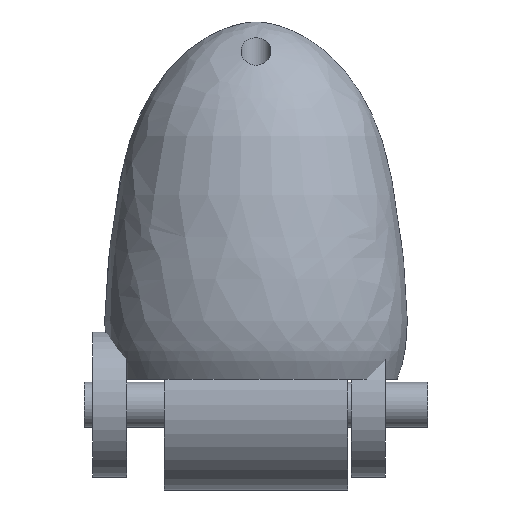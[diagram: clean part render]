
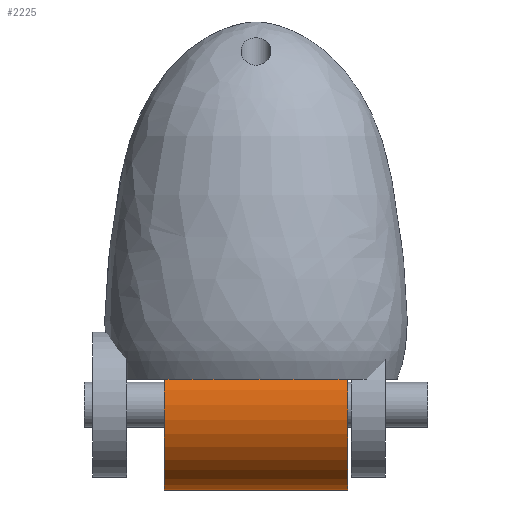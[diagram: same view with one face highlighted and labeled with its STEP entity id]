
A CAD part, left-side view. The second image highlights one B-rep face of the part: STEP entity #2225.
In plain terms, the highlighted cylindrical face has radius 4 mm (diameter 8 mm), a full revolution.
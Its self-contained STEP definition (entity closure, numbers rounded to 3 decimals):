
#2225 = ADVANCED_FACE('',(#2226),#2253,.T.);
#2226 = FACE_BOUND('',#2227,.T.);
#2227 = EDGE_LOOP('',(#2228,#2237,#2245,#2252));
#2228 = ORIENTED_EDGE('',*,*,#2229,.F.);
#2229 = EDGE_CURVE('',#2230,#2230,#2232,.T.);
#2230 = VERTEX_POINT('',#2231);
#2231 = CARTESIAN_POINT('',(0.,4.302,4.));
#2232 = CIRCLE('',#2233,4.);
#2233 = AXIS2_PLACEMENT_3D('',#2234,#2235,#2236);
#2234 = CARTESIAN_POINT('',(0.,4.302,0.));
#2235 = DIRECTION('',(0.,1.,0.));
#2236 = DIRECTION('',(0.,-0.,1.));
#2237 = ORIENTED_EDGE('',*,*,#2238,.F.);
#2238 = EDGE_CURVE('',#2239,#2230,#2241,.T.);
#2239 = VERTEX_POINT('',#2240);
#2240 = CARTESIAN_POINT('',(0.,-4.302,4.));
#2241 = LINE('',#2242,#2243);
#2242 = CARTESIAN_POINT('',(0.,-4.302,4.));
#2243 = VECTOR('',#2244,1.);
#2244 = DIRECTION('',(0.,1.,0.));
#2245 = ORIENTED_EDGE('',*,*,#2246,.T.);
#2246 = EDGE_CURVE('',#2239,#2239,#2247,.T.);
#2247 = CIRCLE('',#2248,4.);
#2248 = AXIS2_PLACEMENT_3D('',#2249,#2250,#2251);
#2249 = CARTESIAN_POINT('',(0.,-4.302,0.));
#2250 = DIRECTION('',(0.,1.,0.));
#2251 = DIRECTION('',(0.,-0.,1.));
#2252 = ORIENTED_EDGE('',*,*,#2238,.T.);
#2253 = CYLINDRICAL_SURFACE('',#2254,4.);
#2254 = AXIS2_PLACEMENT_3D('',#2255,#2256,#2257);
#2255 = CARTESIAN_POINT('',(0.,-4.302,0.));
#2256 = DIRECTION('',(0.,1.,0.));
#2257 = DIRECTION('',(0.,-0.,1.));
